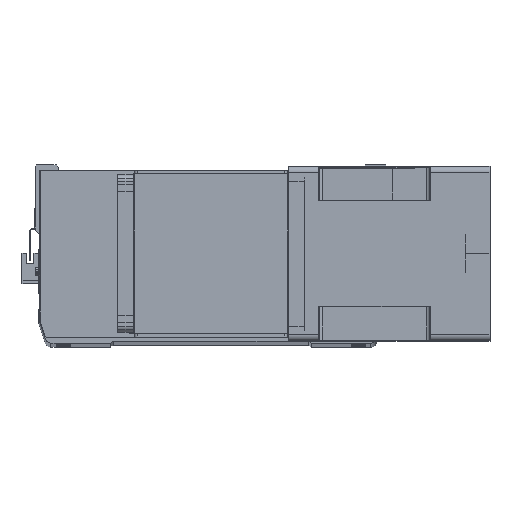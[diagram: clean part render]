
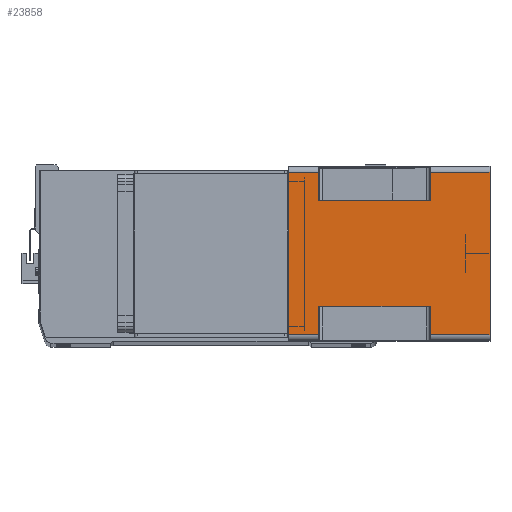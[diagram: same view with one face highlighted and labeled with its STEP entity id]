
A CAD part, top view. The second image highlights one B-rep face of the part: STEP entity #23858.
In plain terms, the highlighted planar face has unit normal (0, 0, 1) as drawn and (1, 0, 0) by its records, which use the part's own axes.
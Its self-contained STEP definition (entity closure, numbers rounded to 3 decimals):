
#723 = LINE ( 'NONE', #27338, #6485 ) ;
#760 = CARTESIAN_POINT ( 'NONE',  ( 71., 43., -115.5 ) ) ;
#817 = VECTOR ( 'NONE', #16581, 1000. ) ;
#824 = VERTEX_POINT ( 'NONE', #27656 ) ;
#1169 = ORIENTED_EDGE ( 'NONE', *, *, #25668, .F. ) ;
#1704 = CARTESIAN_POINT ( 'NONE',  ( 71., 43., -24.5 ) ) ;
#2034 = VERTEX_POINT ( 'NONE', #8230 ) ;
#2619 = EDGE_LOOP ( 'NONE', ( #3412, #10096, #29381, #14227, #10695, #29192, #19494, #10688, #17358, #1169, #9431, #31839 ) ) ;
#2875 = CARTESIAN_POINT ( 'NONE',  ( 71., -43., -24.5 ) ) ;
#2965 = EDGE_CURVE ( 'NONE', #824, #2034, #723, .T. ) ;
#3005 = EDGE_CURVE ( 'NONE', #824, #5912, #5715, .T. ) ;
#3412 = ORIENTED_EDGE ( 'NONE', *, *, #21491, .F. ) ;
#4207 = EDGE_CURVE ( 'NONE', #16106, #18868, #13436, .T. ) ;
#4239 = VERTEX_POINT ( 'NONE', #11260 ) ;
#5157 = DIRECTION ( 'NONE',  ( 0., 0., 1. ) ) ;
#5581 = VECTOR ( 'NONE', #29293, 1000. ) ;
#5662 = VECTOR ( 'NONE', #26205, 1000. ) ;
#5715 = LINE ( 'NONE', #2875, #24742 ) ;
#5912 = VERTEX_POINT ( 'NONE', #9167 ) ;
#6000 = DIRECTION ( 'NONE',  ( 0., 1., 0. ) ) ;
#6044 = VECTOR ( 'NONE', #31357, 1000. ) ;
#6485 = VECTOR ( 'NONE', #5157, 1000. ) ;
#6704 = AXIS2_PLACEMENT_3D ( 'NONE', #13481, #23450, #6000 ) ;
#6937 = EDGE_CURVE ( 'NONE', #18868, #31193, #31745, .T. ) ;
#7360 = DIRECTION ( 'NONE',  ( 0., -1., 0. ) ) ;
#8230 = CARTESIAN_POINT ( 'NONE',  ( 71., -66., 0. ) ) ;
#8257 = DIRECTION ( 'NONE',  ( 0., 1., 0. ) ) ;
#9167 = CARTESIAN_POINT ( 'NONE',  ( 71., -43., -24.5 ) ) ;
#9431 = ORIENTED_EDGE ( 'NONE', *, *, #2965, .F. ) ;
#9474 = VECTOR ( 'NONE', #16014, 1000. ) ;
#9819 = VECTOR ( 'NONE', #18040, 1000. ) ;
#10096 = ORIENTED_EDGE ( 'NONE', *, *, #11542, .T. ) ;
#10274 = CARTESIAN_POINT ( 'NONE',  ( 71., 66., -164. ) ) ;
#10688 = ORIENTED_EDGE ( 'NONE', *, *, #4207, .T. ) ;
#10695 = ORIENTED_EDGE ( 'NONE', *, *, #21357, .T. ) ;
#11012 = LINE ( 'NONE', #14061, #5581 ) ;
#11151 = CARTESIAN_POINT ( 'NONE',  ( 71., 66., -164. ) ) ;
#11260 = CARTESIAN_POINT ( 'NONE',  ( 71., 66., -115.5 ) ) ;
#11310 = EDGE_CURVE ( 'NONE', #30310, #24138, #11012, .T. ) ;
#11542 = EDGE_CURVE ( 'NONE', #16770, #12196, #16421, .T. ) ;
#12076 = EDGE_CURVE ( 'NONE', #4239, #16055, #13964, .T. ) ;
#12196 = VERTEX_POINT ( 'NONE', #13012 ) ;
#12617 = LINE ( 'NONE', #14065, #6044 ) ;
#13012 = CARTESIAN_POINT ( 'NONE',  ( 71., -66., -115.5 ) ) ;
#13436 = LINE ( 'NONE', #16234, #5662 ) ;
#13481 = CARTESIAN_POINT ( 'NONE',  ( 71., -66., -164. ) ) ;
#13925 = VECTOR ( 'NONE', #25223, 1000. ) ;
#13964 = LINE ( 'NONE', #27191, #18610 ) ;
#14061 = CARTESIAN_POINT ( 'NONE',  ( 71., -66., -164. ) ) ;
#14065 = CARTESIAN_POINT ( 'NONE',  ( 71., -66., 0. ) ) ;
#14175 = CARTESIAN_POINT ( 'NONE',  ( 71., -43., -115.5 ) ) ;
#14227 = ORIENTED_EDGE ( 'NONE', *, *, #11310, .T. ) ;
#15315 = CARTESIAN_POINT ( 'NONE',  ( 71., -66., -164. ) ) ;
#16014 = DIRECTION ( 'NONE',  ( 0., 0., 1. ) ) ;
#16055 = VERTEX_POINT ( 'NONE', #760 ) ;
#16082 = LINE ( 'NONE', #20468, #9474 ) ;
#16106 = VERTEX_POINT ( 'NONE', #1704 ) ;
#16234 = CARTESIAN_POINT ( 'NONE',  ( 71., -66., -24.5 ) ) ;
#16421 = LINE ( 'NONE', #17829, #9819 ) ;
#16581 = DIRECTION ( 'NONE',  ( 0., 0., 1. ) ) ;
#16770 = VERTEX_POINT ( 'NONE', #14175 ) ;
#17358 = ORIENTED_EDGE ( 'NONE', *, *, #6937, .T. ) ;
#17707 = CARTESIAN_POINT ( 'NONE',  ( 71., 66., -24.5 ) ) ;
#17829 = CARTESIAN_POINT ( 'NONE',  ( 71., -66., -115.5 ) ) ;
#17864 = LINE ( 'NONE', #23461, #21772 ) ;
#18040 = DIRECTION ( 'NONE',  ( 0., -1., 0. ) ) ;
#18610 = VECTOR ( 'NONE', #7360, 1000. ) ;
#18681 = PLANE ( 'NONE',  #6704 ) ;
#18868 = VERTEX_POINT ( 'NONE', #17707 ) ;
#19466 = FACE_OUTER_BOUND ( 'NONE', #2619, .T. ) ;
#19494 = ORIENTED_EDGE ( 'NONE', *, *, #22816, .F. ) ;
#20225 = CARTESIAN_POINT ( 'NONE',  ( 71., -66., -164. ) ) ;
#20468 = CARTESIAN_POINT ( 'NONE',  ( 71., -43., -164. ) ) ;
#21357 = EDGE_CURVE ( 'NONE', #24138, #4239, #31565, .T. ) ;
#21458 = CARTESIAN_POINT ( 'NONE',  ( 71., 66., 0. ) ) ;
#21491 = EDGE_CURVE ( 'NONE', #16770, #5912, #16082, .T. ) ;
#21772 = VECTOR ( 'NONE', #28483, 1000. ) ;
#22816 = EDGE_CURVE ( 'NONE', #16106, #16055, #17864, .T. ) ;
#23450 = DIRECTION ( 'NONE',  ( 1., 0., 0. ) ) ;
#23461 = CARTESIAN_POINT ( 'NONE',  ( 71., 43., -164. ) ) ;
#23858 = ADVANCED_FACE ( 'NONE', ( #19466 ), #18681, .T. ) ;
#23974 = CARTESIAN_POINT ( 'NONE',  ( 71., 66., -164. ) ) ;
#24138 = VERTEX_POINT ( 'NONE', #10274 ) ;
#24588 = EDGE_CURVE ( 'NONE', #30310, #12196, #27091, .T. ) ;
#24742 = VECTOR ( 'NONE', #8257, 1000. ) ;
#25030 = VECTOR ( 'NONE', #28641, 1000. ) ;
#25223 = DIRECTION ( 'NONE',  ( 0., 0., 1. ) ) ;
#25668 = EDGE_CURVE ( 'NONE', #2034, #31193, #12617, .T. ) ;
#26205 = DIRECTION ( 'NONE',  ( 0., 1., 0. ) ) ;
#27091 = LINE ( 'NONE', #20225, #13925 ) ;
#27191 = CARTESIAN_POINT ( 'NONE',  ( 71., 43., -115.5 ) ) ;
#27338 = CARTESIAN_POINT ( 'NONE',  ( 71., -66., -164. ) ) ;
#27656 = CARTESIAN_POINT ( 'NONE',  ( 71., -66., -24.5 ) ) ;
#28483 = DIRECTION ( 'NONE',  ( 0., 0., -1. ) ) ;
#28641 = DIRECTION ( 'NONE',  ( 0., 0., 1. ) ) ;
#29192 = ORIENTED_EDGE ( 'NONE', *, *, #12076, .T. ) ;
#29293 = DIRECTION ( 'NONE',  ( 0., 1., 0. ) ) ;
#29381 = ORIENTED_EDGE ( 'NONE', *, *, #24588, .F. ) ;
#30310 = VERTEX_POINT ( 'NONE', #15315 ) ;
#31193 = VERTEX_POINT ( 'NONE', #21458 ) ;
#31357 = DIRECTION ( 'NONE',  ( 0., 1., 0. ) ) ;
#31565 = LINE ( 'NONE', #11151, #25030 ) ;
#31745 = LINE ( 'NONE', #23974, #817 ) ;
#31839 = ORIENTED_EDGE ( 'NONE', *, *, #3005, .T. ) ;
